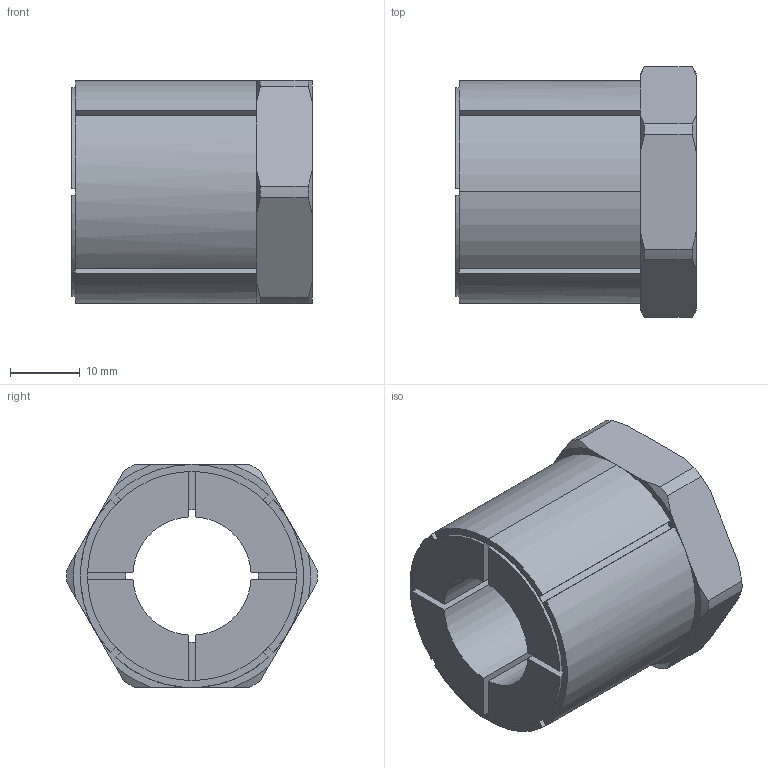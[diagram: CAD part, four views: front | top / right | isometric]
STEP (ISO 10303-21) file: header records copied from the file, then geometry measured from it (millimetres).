
FILE_DESCRIPTION (( 'STEP AP203' ), '1' );
FILE_NAME ('KBS 58 - 17 x 32.STEP', '2015-07-05T19:51:13', ( '' ), ( '' ), 'SwSTEP 2.0', 'SolidWorks 2010', '' );
FILE_SCHEMA (( 'CONFIG_CONTROL_DESIGN' ));
Length unit declared in the file: millimetre
Products named in the file (1): KBS 58 - 17 x 32
Bounding box: 34.5 x 36 x 32 mm (x, y, z)
Volume: 19480.5 mm3; surface area: 8642.1 mm2
Topology: 1 solids, 1 shells, 84 faces, 231 edges, 149 vertices
Faces by surface type: plane 42, cylinder 26, cone 16
Entity records: 2817 total; most frequent: CARTESIAN_POINT 585, ORIENTED_EDGE 462, DIRECTION 454, EDGE_CURVE 231, AXIS2_PLACEMENT_3D 170, VERTEX_POINT 149, LINE 114, VECTOR 114
